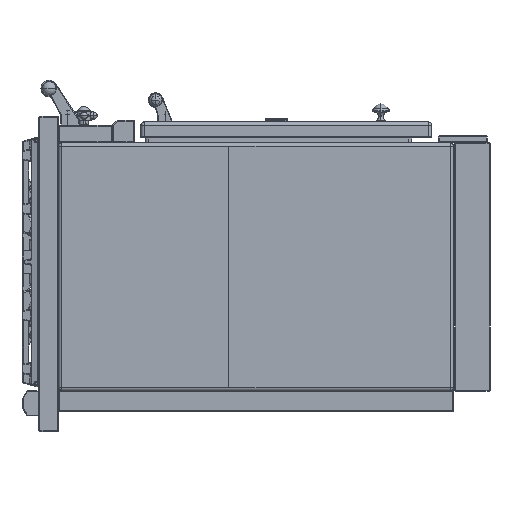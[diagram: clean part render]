
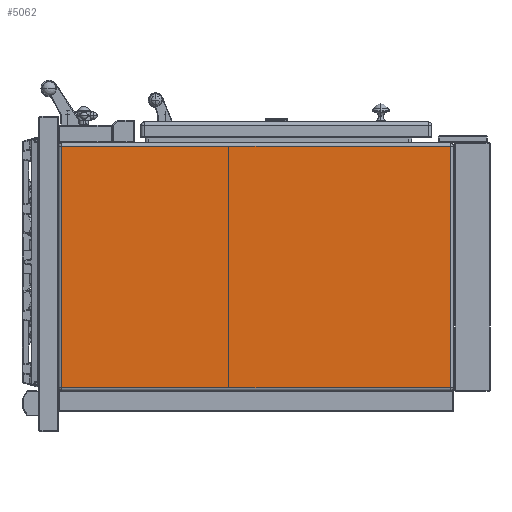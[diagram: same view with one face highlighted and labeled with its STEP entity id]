
A CAD part, left-side view. The second image highlights one B-rep face of the part: STEP entity #5062.
In plain terms, the highlighted planar face has unit normal (-1, 0, 0) as drawn and (1, 0, 0) by its records, which use the part's own axes.
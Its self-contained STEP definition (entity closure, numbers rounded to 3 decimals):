
#925=DIRECTION('',(0.,-1.,0.));
#926=VECTOR('',#925,801.);
#927=CARTESIAN_POINT('',(950.,883.,-249.));
#928=LINE('',#927,#926);
#929=DIRECTION('',(0.,0.,1.));
#930=VECTOR('',#929,498.);
#931=CARTESIAN_POINT('',(950.,82.,-249.));
#932=LINE('',#931,#930);
#933=DIRECTION('',(0.,1.,0.));
#934=VECTOR('',#933,801.);
#935=CARTESIAN_POINT('',(950.,82.,249.));
#936=LINE('',#935,#934);
#937=DIRECTION('',(0.,0.,-1.));
#938=VECTOR('',#937,498.);
#939=CARTESIAN_POINT('',(950.,883.,249.));
#940=LINE('',#939,#938);
#3183=CARTESIAN_POINT('',(950.,883.,-249.));
#3184=CARTESIAN_POINT('',(950.,82.,-249.));
#3185=VERTEX_POINT('',#3183);
#3186=VERTEX_POINT('',#3184);
#3205=CARTESIAN_POINT('',(950.,82.,249.));
#3206=VERTEX_POINT('',#3205);
#3211=CARTESIAN_POINT('',(950.,883.,249.));
#3212=VERTEX_POINT('',#3211);
#5050=CARTESIAN_POINT('',(950.,0.,0.));
#5051=DIRECTION('',(-1.,0.,0.));
#5052=DIRECTION('',(0.,0.,1.));
#5053=AXIS2_PLACEMENT_3D('',#5050,#5051,#5052);
#5054=PLANE('',#5053);
#5055=ORIENTED_EDGE('',*,*,#4475,.T.);
#5056=ORIENTED_EDGE('',*,*,#4518,.T.);
#5058=ORIENTED_EDGE('',*,*,#5057,.T.);
#5059=ORIENTED_EDGE('',*,*,#5018,.T.);
#5060=EDGE_LOOP('',(#5055,#5056,#5058,#5059));
#5061=FACE_OUTER_BOUND('',#5060,.F.);
#4475=EDGE_CURVE('',#3185,#3186,#928,.T.);
#4518=EDGE_CURVE('',#3186,#3206,#932,.T.);
#5018=EDGE_CURVE('',#3212,#3185,#940,.T.);
#5057=EDGE_CURVE('',#3206,#3212,#936,.T.);
#5062=ADVANCED_FACE('',(#5061),#5054,.F.);
